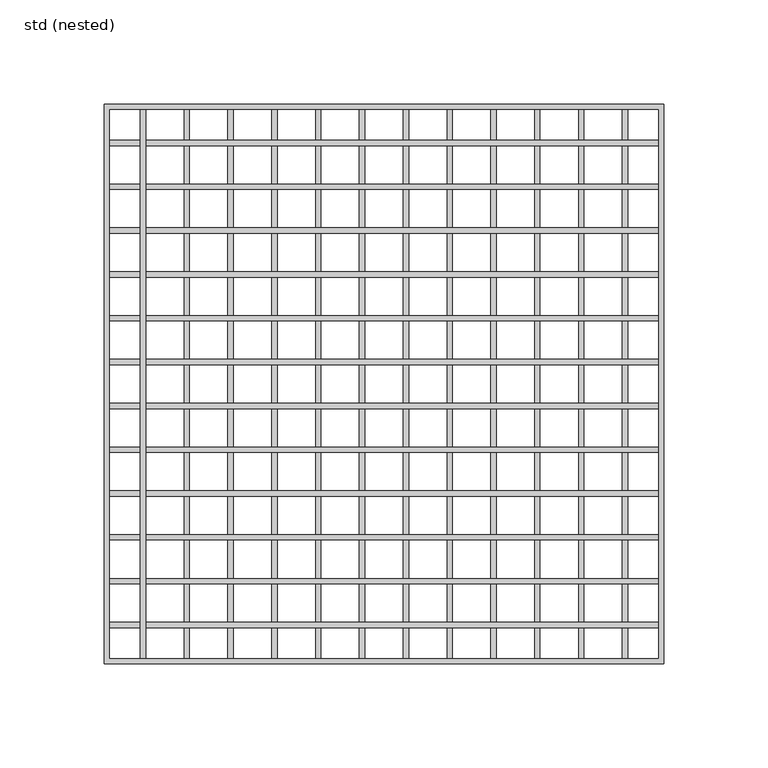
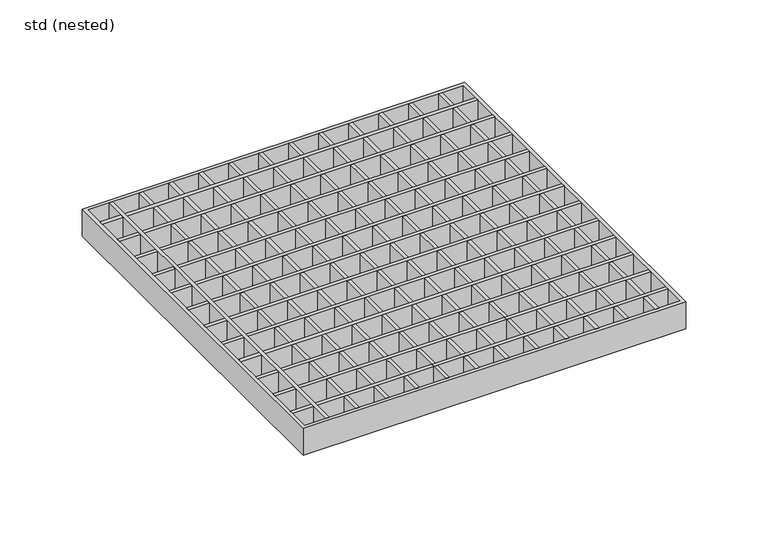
"""IFC4 building model written with IfcOpenShell, lengths in millimetres: sanitary terminal geometry, ZZZ_do not use_PF_ST_UN_square grating for hygienic gully_ACO : std (nested)."""

from ifc_helpers import new_model, si_unit, frame, origin, place, context, project, spatial, polyline, outline, extrude, source, transform, mapped, element, save


def std_nested_3e81e737(model_context):
    return source(origin(), model_context, "Body", "SweptSolid", [
        extrude(outline(polyline([(-114.25, -131.5), (-116.75, -131.5), (-116.75, 131.5), (-114.25, 131.5), (-114.25, -131.5)])), frame((0.0, 0.0, -20.0), z_axis=(0.0, 0.0, 1.0), x_axis=(1.0, 0.0, 0.0)), (0.0, 0.0, 1.0), 20.0),
        extrude(outline(polyline([(-131.5, -116.75), (-131.5, -114.25), (131.5, -114.25), (131.5, -116.75), (-131.5, -116.75)])), frame((0.0, 0.0, -20.0), z_axis=(0.0, 0.0, 1.0), x_axis=(1.0, 0.0, 0.0)), (0.0, 0.0, 1.0), 20.0),
        extrude(outline(polyline([(-131.5, -95.75), (-131.5, -93.25), (131.5, -93.25), (131.5, -95.75), (-131.5, -95.75)])), frame((0.0, 0.0, -20.0), z_axis=(0.0, 0.0, 1.0), x_axis=(1.0, 0.0, 0.0)), (0.0, 0.0, 1.0), 20.0),
        extrude(outline(polyline([(-131.5, -74.75), (-131.5, -72.25), (131.5, -72.25), (131.5, -74.75), (-131.5, -74.75)])), frame((0.0, 0.0, -20.0), z_axis=(0.0, 0.0, 1.0), x_axis=(1.0, 0.0, 0.0)), (0.0, 0.0, 1.0), 20.0),
        extrude(outline(polyline([(-131.5, -53.75), (-131.5, -51.25), (131.5, -51.25), (131.5, -53.75), (-131.5, -53.75)])), frame((0.0, 0.0, -20.0), z_axis=(0.0, 0.0, 1.0), x_axis=(1.0, 0.0, 0.0)), (0.0, 0.0, 1.0), 20.0),
        extrude(outline(polyline([(-131.5, -32.75), (-131.5, -30.25), (131.5, -30.25), (131.5, -32.75), (-131.5, -32.75)])), frame((0.0, 0.0, -20.0), z_axis=(0.0, 0.0, 1.0), x_axis=(1.0, 0.0, 0.0)), (0.0, 0.0, 1.0), 20.0),
        extrude(outline(polyline([(-131.5, 114.25), (-131.5, 116.75), (131.5, 116.75), (131.5, 114.25), (-131.5, 114.25)])), frame((0.0, 0.0, -20.0), z_axis=(0.0, 0.0, 1.0), x_axis=(1.0, 0.0, 0.0)), (0.0, 0.0, 1.0), 20.0),
        extrude(outline(polyline([(-131.5, 93.25), (-131.5, 95.75), (131.5, 95.75), (131.5, 93.25), (-131.5, 93.25)])), frame((0.0, 0.0, -20.0), z_axis=(0.0, 0.0, 1.0), x_axis=(1.0, 0.0, 0.0)), (0.0, 0.0, 1.0), 20.0),
        extrude(outline(polyline([(-131.5, 72.25), (-131.5, 74.75), (131.5, 74.75), (131.5, 72.25), (-131.5, 72.25)])), frame((0.0, 0.0, -20.0), z_axis=(0.0, 0.0, 1.0), x_axis=(1.0, 0.0, 0.0)), (0.0, 0.0, 1.0), 20.0),
        extrude(outline(polyline([(-131.5, 51.25), (-131.5, 53.75), (131.5, 53.75), (131.5, 51.25), (-131.5, 51.25)])), frame((0.0, 0.0, -20.0), z_axis=(0.0, 0.0, 1.0), x_axis=(1.0, 0.0, 0.0)), (0.0, 0.0, 1.0), 20.0),
        extrude(outline(polyline([(-131.5, 30.25), (-131.5, 32.75), (131.5, 32.75), (131.5, 30.25), (-131.5, 30.25)])), frame((0.0, 0.0, -20.0), z_axis=(0.0, 0.0, 1.0), x_axis=(1.0, 0.0, 0.0)), (0.0, 0.0, 1.0), 20.0),
        extrude(outline(polyline([(-131.5, 9.25), (-131.5, 11.75), (131.5, 11.75), (131.5, 9.25), (-131.5, 9.25)])), frame((0.0, 0.0, -20.0), z_axis=(0.0, 0.0, 1.0), x_axis=(1.0, 0.0, 0.0)), (0.0, 0.0, 1.0), 20.0),
        extrude(outline(polyline([(-131.5, -11.75), (-131.5, -9.25), (131.5, -9.25), (131.5, -11.75), (-131.5, -11.75)])), frame((0.0, 0.0, -20.0), z_axis=(0.0, 0.0, 1.0), x_axis=(1.0, 0.0, 0.0)), (0.0, 0.0, 1.0), 20.0),
        extrude(outline(polyline([(116.75, -131.5), (114.25, -131.5), (114.25, 131.5), (116.75, 131.5), (116.75, -131.5)])), frame((0.0, 0.0, -20.0), z_axis=(0.0, 0.0, 1.0), x_axis=(1.0, 0.0, 0.0)), (0.0, 0.0, 1.0), 20.0),
        extrude(outline(polyline([(-93.25, -131.5), (-95.75, -131.5), (-95.75, 131.5), (-93.25, 131.5), (-93.25, -131.5)])), frame((0.0, 0.0, -20.0), z_axis=(0.0, 0.0, 1.0), x_axis=(1.0, 0.0, 0.0)), (0.0, 0.0, 1.0), 20.0),
        extrude(outline(polyline([(-72.25, -131.5), (-74.75, -131.5), (-74.75, 131.5), (-72.25, 131.5), (-72.25, -131.5)])), frame((0.0, 0.0, -20.0), z_axis=(0.0, 0.0, 1.0), x_axis=(1.0, 0.0, 0.0)), (0.0, 0.0, 1.0), 20.0),
        extrude(outline(polyline([(-51.25, -131.5), (-53.75, -131.5), (-53.75, 131.5), (-51.25, 131.5), (-51.25, -131.5)])), frame((0.0, 0.0, -20.0), z_axis=(0.0, 0.0, 1.0), x_axis=(1.0, 0.0, 0.0)), (0.0, 0.0, 1.0), 20.0),
        extrude(outline(polyline([(-30.25, -131.5), (-32.75, -131.5), (-32.75, 131.5), (-30.25, 131.5), (-30.25, -131.5)])), frame((0.0, 0.0, -20.0), z_axis=(0.0, 0.0, 1.0), x_axis=(1.0, 0.0, 0.0)), (0.0, 0.0, 1.0), 20.0),
        extrude(outline(polyline([(95.75, -131.5), (93.25, -131.5), (93.25, 131.5), (95.75, 131.5), (95.75, -131.5)])), frame((0.0, 0.0, -20.0), z_axis=(0.0, 0.0, 1.0), x_axis=(1.0, 0.0, 0.0)), (0.0, 0.0, 1.0), 20.0),
        extrude(outline(polyline([(74.75, -131.5), (72.25, -131.5), (72.25, 131.5), (74.75, 131.5), (74.75, -131.5)])), frame((0.0, 0.0, -20.0), z_axis=(0.0, 0.0, 1.0), x_axis=(1.0, 0.0, 0.0)), (0.0, 0.0, 1.0), 20.0),
        extrude(outline(polyline([(53.75, -131.5), (51.25, -131.5), (51.25, 131.5), (53.75, 131.5), (53.75, -131.5)])), frame((0.0, 0.0, -20.0), z_axis=(0.0, 0.0, 1.0), x_axis=(1.0, 0.0, 0.0)), (0.0, 0.0, 1.0), 20.0),
        extrude(outline(polyline([(32.75, -131.5), (30.25, -131.5), (30.25, 131.5), (32.75, 131.5), (32.75, -131.5)])), frame((0.0, 0.0, -20.0), z_axis=(0.0, 0.0, 1.0), x_axis=(1.0, 0.0, 0.0)), (0.0, 0.0, 1.0), 20.0),
        extrude(outline(polyline([(-9.25, -131.5), (-11.75, -131.5), (-11.75, 131.5), (-9.25, 131.5), (-9.25, -131.5)])), frame((0.0, 0.0, -20.0), z_axis=(0.0, 0.0, 1.0), x_axis=(1.0, 0.0, 0.0)), (0.0, 0.0, 1.0), 20.0),
        extrude(outline(polyline([(11.75, -131.5), (9.25, -131.5), (9.25, 131.5), (11.75, 131.5), (11.75, -131.5)])), frame((0.0, 0.0, -20.0), z_axis=(0.0, 0.0, 1.0), x_axis=(1.0, 0.0, 0.0)), (0.0, 0.0, 1.0), 20.0),
        extrude(outline(polyline([(134.0, 134.0), (134.0, -134.0), (-134.0, -134.0), (-134.0, 134.0), (134.0, 134.0)]), holes=[polyline([(131.5, 131.5), (-131.5, 131.5), (-131.5, -131.5), (131.5, -131.5), (131.5, 131.5)])]), frame((0.0, 0.0, -20.0), z_axis=(0.0, 0.0, 1.0), x_axis=(1.0, 0.0, 0.0)), (0.0, 0.0, 1.0), 20.0),
    ])


if __name__ == "__main__":
    model = new_model("IFC4")
    model_context = context("Model", 3, world=origin())
    ifc_project = project(units=[si_unit("LENGTHUNIT", "METRE", prefix="MILLI")], contexts=[model_context])
    site = spatial("IfcSite", under=ifc_project)
    building = spatial("IfcBuilding", under=site)
    placement = place(None, origin())
    std_nested_shape = std_nested_3e81e737(model_context)
    element("IfcSanitaryTerminal", 1, ObjectType="ZZZ_do not use_PF_ST_UN_square grating for hygienic gully_ACO : std (nested)", at=placement, inside=building, context=model_context, shape_type="MappedRepresentation", body=[
        mapped(std_nested_shape, transform((0.0, 0.0, 0.0), x_axis=(1.0, 0.0, 0.0), y_axis=(0.0, 1.0, 0.0), z_axis=(0.0, 0.0, 1.0))),
    ])
    save(model, "model.ifc")
